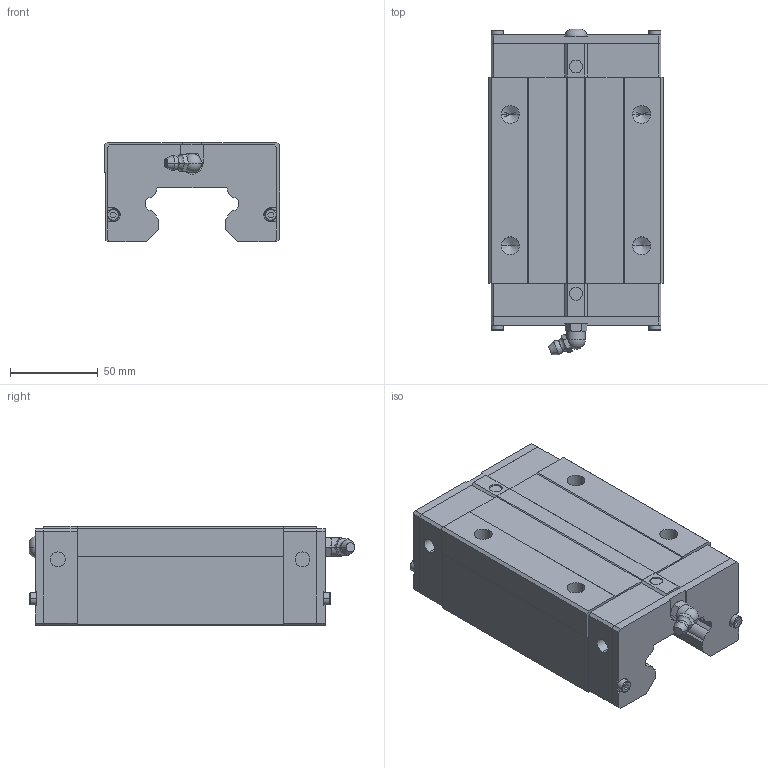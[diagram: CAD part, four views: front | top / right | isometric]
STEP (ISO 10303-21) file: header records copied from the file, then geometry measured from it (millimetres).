
FILE_DESCRIPTION(('no description'),'unknown implementation level');
FILE_NAME('HGL55CA_Z0_H_SS_11.stp',' ',('HIWIN GmbH'),('CADClick - KiM GmbH - www.kimweb.de'),'unknown preprocess','ACIS','unknown authorization');
FILE_SCHEMA(('automotive_design'));
Length unit declared in the file: millimetre
Products named in the file (1): HGL55CA Z0 H SS
Bounding box: 100 x 185.83 x 57 mm (x, y, z)
Volume: 683899.8 mm3; surface area: 76951.4 mm2
Topology: 1 solids, 6 shells, 293 faces, 757 edges, 479 vertices
Faces by surface type: plane 179, cylinder 60, torus 30, cone 22, sphere 2
Entity records: 17472 total; most frequent: CARTESIAN_POINT 1820, STYLED_ITEM 1520, PRESENTATION_STYLE_ASSIGNMENT 1520, COLOUR_RGB 1520, ORIENTED_EDGE 1494, DIRECTION 1486, EDGE_CURVE 747, CURVE_STYLE 747
